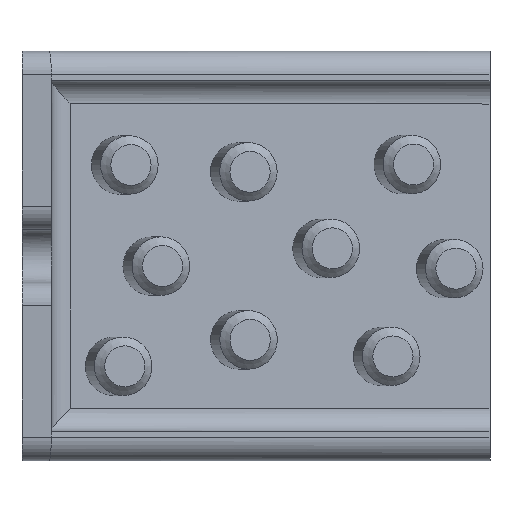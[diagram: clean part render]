
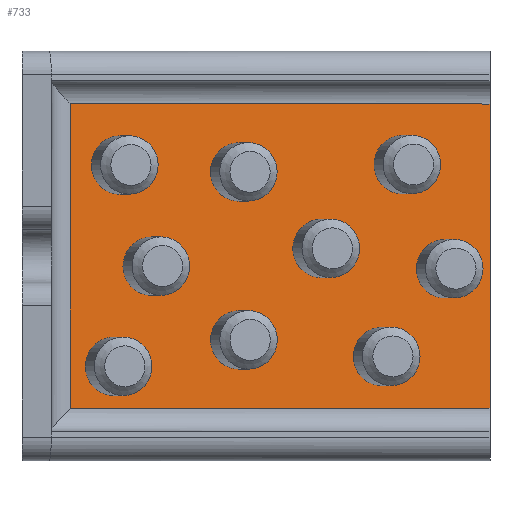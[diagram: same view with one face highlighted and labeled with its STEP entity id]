
A CAD part, top view. The second image highlights one B-rep face of the part: STEP entity #733.
In plain terms, the highlighted planar face has unit normal (0.184, 0, 0.983).
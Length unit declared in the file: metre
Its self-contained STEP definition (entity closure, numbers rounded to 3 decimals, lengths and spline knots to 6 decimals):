
#53=CIRCLE('',#812,0.005);
#54=CIRCLE('',#813,0.005);
#55=CIRCLE('',#814,0.005);
#56=CIRCLE('',#815,0.005);
#57=CIRCLE('',#816,0.005);
#58=CIRCLE('',#817,0.005);
#59=CIRCLE('',#818,0.005);
#60=CIRCLE('',#819,0.005);
#61=CIRCLE('',#820,0.005);
#126=ORIENTED_EDGE('',*,*,#314,.F.);
#127=ORIENTED_EDGE('',*,*,#315,.F.);
#128=ORIENTED_EDGE('',*,*,#316,.F.);
#129=ORIENTED_EDGE('',*,*,#317,.F.);
#130=ORIENTED_EDGE('',*,*,#318,.F.);
#131=ORIENTED_EDGE('',*,*,#319,.F.);
#132=ORIENTED_EDGE('',*,*,#320,.F.);
#133=ORIENTED_EDGE('',*,*,#321,.F.);
#134=ORIENTED_EDGE('',*,*,#322,.F.);
#135=ORIENTED_EDGE('',*,*,#323,.T.);
#136=ORIENTED_EDGE('',*,*,#324,.T.);
#137=ORIENTED_EDGE('',*,*,#325,.F.);
#138=ORIENTED_EDGE('',*,*,#326,.T.);
#314=EDGE_CURVE('',#406,#406,#53,.F.);
#315=EDGE_CURVE('',#407,#407,#54,.F.);
#316=EDGE_CURVE('',#408,#408,#55,.F.);
#317=EDGE_CURVE('',#409,#409,#56,.F.);
#318=EDGE_CURVE('',#410,#410,#57,.F.);
#319=EDGE_CURVE('',#411,#411,#58,.F.);
#320=EDGE_CURVE('',#412,#412,#59,.F.);
#321=EDGE_CURVE('',#413,#413,#60,.F.);
#322=EDGE_CURVE('',#414,#414,#61,.F.);
#323=EDGE_CURVE('',#415,#416,#470,.T.);
#324=EDGE_CURVE('',#416,#417,#471,.T.);
#325=EDGE_CURVE('',#418,#417,#472,.T.);
#326=EDGE_CURVE('',#418,#415,#473,.F.);
#406=VERTEX_POINT('',#1214);
#407=VERTEX_POINT('',#1216);
#408=VERTEX_POINT('',#1218);
#409=VERTEX_POINT('',#1220);
#410=VERTEX_POINT('',#1222);
#411=VERTEX_POINT('',#1224);
#412=VERTEX_POINT('',#1226);
#413=VERTEX_POINT('',#1228);
#414=VERTEX_POINT('',#1230);
#415=VERTEX_POINT('',#1232);
#416=VERTEX_POINT('',#1233);
#417=VERTEX_POINT('',#1235);
#418=VERTEX_POINT('',#1237);
#470=LINE('',#1231,#515);
#471=LINE('',#1234,#516);
#472=LINE('',#1236,#517);
#473=LINE('',#1238,#518);
#515=VECTOR('',#970,1.);
#516=VECTOR('',#971,1.);
#517=VECTOR('',#972,1.);
#518=VECTOR('',#973,1.);
#548=EDGE_LOOP('',(#126));
#549=EDGE_LOOP('',(#127));
#550=EDGE_LOOP('',(#128));
#551=EDGE_LOOP('',(#129));
#552=EDGE_LOOP('',(#130));
#553=EDGE_LOOP('',(#131));
#554=EDGE_LOOP('',(#132));
#555=EDGE_LOOP('',(#133));
#556=EDGE_LOOP('',(#134));
#557=EDGE_LOOP('',(#135,#136,#137,#138));
#629=FACE_BOUND('',#548,.T.);
#630=FACE_BOUND('',#549,.T.);
#631=FACE_BOUND('',#550,.T.);
#632=FACE_BOUND('',#551,.T.);
#633=FACE_BOUND('',#552,.T.);
#634=FACE_BOUND('',#553,.T.);
#635=FACE_BOUND('',#554,.T.);
#636=FACE_BOUND('',#555,.T.);
#637=FACE_BOUND('',#556,.T.);
#638=FACE_BOUND('',#557,.T.);
#710=PLANE('',#811);
#733=ADVANCED_FACE('',(#629,#630,#631,#632,#633,#634,#635,#636,#637,#638),
#710,.F.);
#811=AXIS2_PLACEMENT_3D('',#1212,#950,#951);
#812=AXIS2_PLACEMENT_3D('',#1213,#952,#953);
#813=AXIS2_PLACEMENT_3D('',#1215,#954,#955);
#814=AXIS2_PLACEMENT_3D('',#1217,#956,#957);
#815=AXIS2_PLACEMENT_3D('',#1219,#958,#959);
#816=AXIS2_PLACEMENT_3D('',#1221,#960,#961);
#817=AXIS2_PLACEMENT_3D('',#1223,#962,#963);
#818=AXIS2_PLACEMENT_3D('',#1225,#964,#965);
#819=AXIS2_PLACEMENT_3D('',#1227,#966,#967);
#820=AXIS2_PLACEMENT_3D('',#1229,#968,#969);
#950=DIRECTION('',(-0.184,0.,-0.983));
#951=DIRECTION('',(-0.983,0.,0.184));
#952=DIRECTION('',(-0.184,0.,-0.983));
#953=DIRECTION('',(-0.983,0.,0.184));
#954=DIRECTION('',(-0.184,0.,-0.983));
#955=DIRECTION('',(-0.983,0.,0.184));
#956=DIRECTION('',(-0.184,0.,-0.983));
#957=DIRECTION('',(-0.983,0.,0.184));
#958=DIRECTION('',(-0.184,0.,-0.983));
#959=DIRECTION('',(-0.983,0.,0.184));
#960=DIRECTION('',(-0.184,0.,-0.983));
#961=DIRECTION('',(-0.983,0.,0.184));
#962=DIRECTION('',(-0.184,0.,-0.983));
#963=DIRECTION('',(-0.983,0.,0.184));
#964=DIRECTION('',(-0.184,0.,-0.983));
#965=DIRECTION('',(-0.983,0.,0.184));
#966=DIRECTION('',(-0.184,0.,-0.983));
#967=DIRECTION('',(-0.983,0.,0.184));
#968=DIRECTION('',(-0.184,0.,-0.983));
#969=DIRECTION('',(-0.983,0.,0.184));
#970=DIRECTION('',(0.,-1.,0.));
#971=DIRECTION('',(0.983,0.,-0.184));
#972=DIRECTION('',(0.,-1.,0.));
#973=DIRECTION('',(0.983,0.,-0.184));
#1212=CARTESIAN_POINT('',(0.325809,0.076502,0.365103));
#1213=CARTESIAN_POINT('',(0.348394,0.062137,0.360868));
#1214=CARTESIAN_POINT('',(0.34348,0.062137,0.361789));
#1215=CARTESIAN_POINT('',(0.355642,0.04434,0.359509));
#1216=CARTESIAN_POINT('',(0.350728,0.04434,0.36043));
#1217=CARTESIAN_POINT('',(0.334517,0.047809,0.36347));
#1218=CARTESIAN_POINT('',(0.329603,0.047809,0.364391));
#1219=CARTESIAN_POINT('',(0.344872,0.029336,0.361528));
#1220=CARTESIAN_POINT('',(0.339957,0.029336,0.36245));
#1221=CARTESIAN_POINT('',(0.305488,0.044759,0.368913));
#1222=CARTESIAN_POINT('',(0.300574,0.044759,0.369834));
#1223=CARTESIAN_POINT('',(0.320444,0.060877,0.366109));
#1224=CARTESIAN_POINT('',(0.31553,0.060877,0.36703));
#1225=CARTESIAN_POINT('',(0.300093,0.062044,0.369925));
#1226=CARTESIAN_POINT('',(0.295178,0.062044,0.370846));
#1227=CARTESIAN_POINT('',(0.320465,0.032155,0.366105));
#1228=CARTESIAN_POINT('',(0.31555,0.032155,0.367026));
#1229=CARTESIAN_POINT('',(0.299047,0.027627,0.370121));
#1230=CARTESIAN_POINT('',(0.294133,0.027627,0.371042));
#1231=CARTESIAN_POINT('',(0.291572,0.016502,0.371522));
#1232=CARTESIAN_POINT('',(0.291572,0.072502,0.371522));
#1233=CARTESIAN_POINT('',(0.291572,0.020502,0.371522));
#1234=CARTESIAN_POINT('',(0.363309,0.020502,0.358072));
#1235=CARTESIAN_POINT('',(0.363309,0.020502,0.358072));
#1236=CARTESIAN_POINT('',(0.363309,0.076502,0.358072));
#1237=CARTESIAN_POINT('',(0.363309,0.072502,0.358072));
#1238=CARTESIAN_POINT('',(0.288309,0.072502,0.372134));
